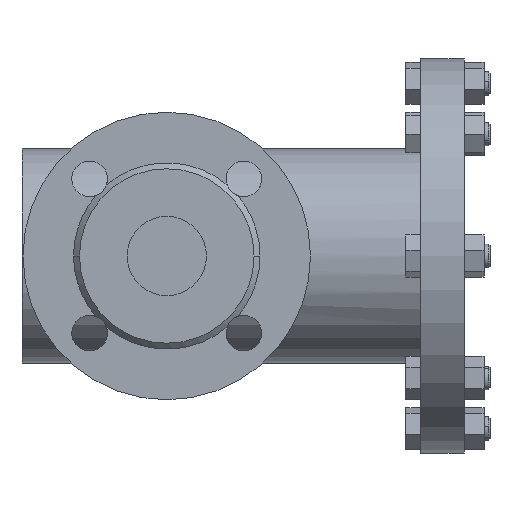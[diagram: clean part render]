
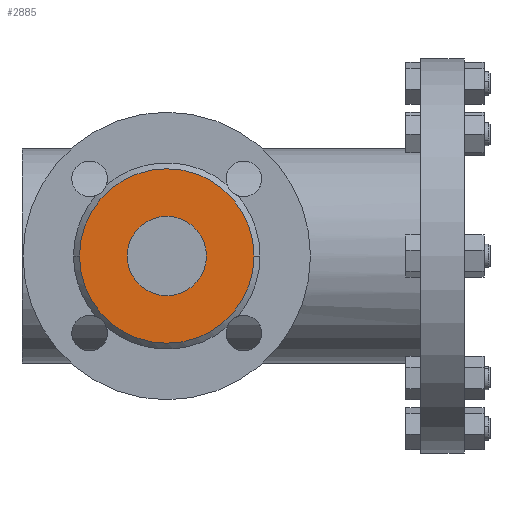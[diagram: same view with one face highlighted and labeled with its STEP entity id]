
A CAD part, left-side view. The second image highlights one B-rep face of the part: STEP entity #2885.
In plain terms, the highlighted planar face has unit normal (-1, 0, 0).
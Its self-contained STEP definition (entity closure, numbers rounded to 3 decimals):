
#69 = DIRECTION ( 'NONE',  ( 0., 1., 0. ) ) ;
#351 = AXIS2_PLACEMENT_3D ( 'NONE', #6383, #1339, #2940 ) ;
#742 = CIRCLE ( 'NONE', #4803, 44. ) ;
#1073 = DIRECTION ( 'NONE',  ( 1., 0., 0. ) ) ;
#1333 = CARTESIAN_POINT ( 'NONE',  ( -155., 134., 0. ) ) ;
#1339 = DIRECTION ( 'NONE',  ( 1., 0., 0. ) ) ;
#1523 = ORIENTED_EDGE ( 'NONE', *, *, #5751, .T. ) ;
#1739 = CARTESIAN_POINT ( 'NONE',  ( -155., 134., 0. ) ) ;
#1752 = EDGE_CURVE ( 'NONE', #5551, #6489, #2922, .T. ) ;
#1830 = DIRECTION ( 'NONE',  ( 0., 0., -1. ) ) ;
#2017 = CARTESIAN_POINT ( 'NONE',  ( -155., 114., 0. ) ) ;
#2052 = EDGE_LOOP ( 'NONE', ( #5195, #1523 ) ) ;
#2340 = DIRECTION ( 'NONE',  ( 1., 0., 0. ) ) ;
#2618 = CARTESIAN_POINT ( 'NONE',  ( -155., 134., 0. ) ) ;
#2640 = EDGE_CURVE ( 'NONE', #6489, #5551, #5731, .T. ) ;
#2885 = ADVANCED_FACE ( 'NONE', ( #6193, #4614 ), #5217, .F. ) ;
#2922 = CIRCLE ( 'NONE', #351, 20. ) ;
#2940 = DIRECTION ( 'NONE',  ( 0., 0., -1. ) ) ;
#3110 = CARTESIAN_POINT ( 'NONE',  ( -155., 134., 0. ) ) ;
#3155 = VERTEX_POINT ( 'NONE', #3373 ) ;
#3164 = AXIS2_PLACEMENT_3D ( 'NONE', #1739, #2340, #1830 ) ;
#3286 = ORIENTED_EDGE ( 'NONE', *, *, #2640, .T. ) ;
#3373 = CARTESIAN_POINT ( 'NONE',  ( -155., 178., 0. ) ) ;
#3376 = CIRCLE ( 'NONE', #4239, 44. ) ;
#3378 = DIRECTION ( 'NONE',  ( -1., 0., 0. ) ) ;
#3540 = ORIENTED_EDGE ( 'NONE', *, *, #1752, .T. ) ;
#3569 = CARTESIAN_POINT ( 'NONE',  ( -155., 154., 0. ) ) ;
#3600 = DIRECTION ( 'NONE',  ( -1., 0., 0. ) ) ;
#4239 = AXIS2_PLACEMENT_3D ( 'NONE', #1333, #3378, #5478 ) ;
#4285 = VERTEX_POINT ( 'NONE', #5781 ) ;
#4453 = AXIS2_PLACEMENT_3D ( 'NONE', #3110, #1073, #69 ) ;
#4614 = FACE_OUTER_BOUND ( 'NONE', #2052, .T. ) ;
#4675 = EDGE_CURVE ( 'NONE', #3155, #4285, #742, .T. ) ;
#4803 = AXIS2_PLACEMENT_3D ( 'NONE', #2618, #3600, #5698 ) ;
#5195 = ORIENTED_EDGE ( 'NONE', *, *, #4675, .T. ) ;
#5217 = PLANE ( 'NONE',  #4453 ) ;
#5478 = DIRECTION ( 'NONE',  ( 0., -1., 0. ) ) ;
#5551 = VERTEX_POINT ( 'NONE', #2017 ) ;
#5698 = DIRECTION ( 'NONE',  ( 0., -1., 0. ) ) ;
#5731 = CIRCLE ( 'NONE', #3164, 20. ) ;
#5751 = EDGE_CURVE ( 'NONE', #4285, #3155, #3376, .T. ) ;
#5781 = CARTESIAN_POINT ( 'NONE',  ( -155., 90., 0. ) ) ;
#6076 = EDGE_LOOP ( 'NONE', ( #3540, #3286 ) ) ;
#6193 = FACE_BOUND ( 'NONE', #6076, .T. ) ;
#6383 = CARTESIAN_POINT ( 'NONE',  ( -155., 134., 0. ) ) ;
#6489 = VERTEX_POINT ( 'NONE', #3569 ) ;
